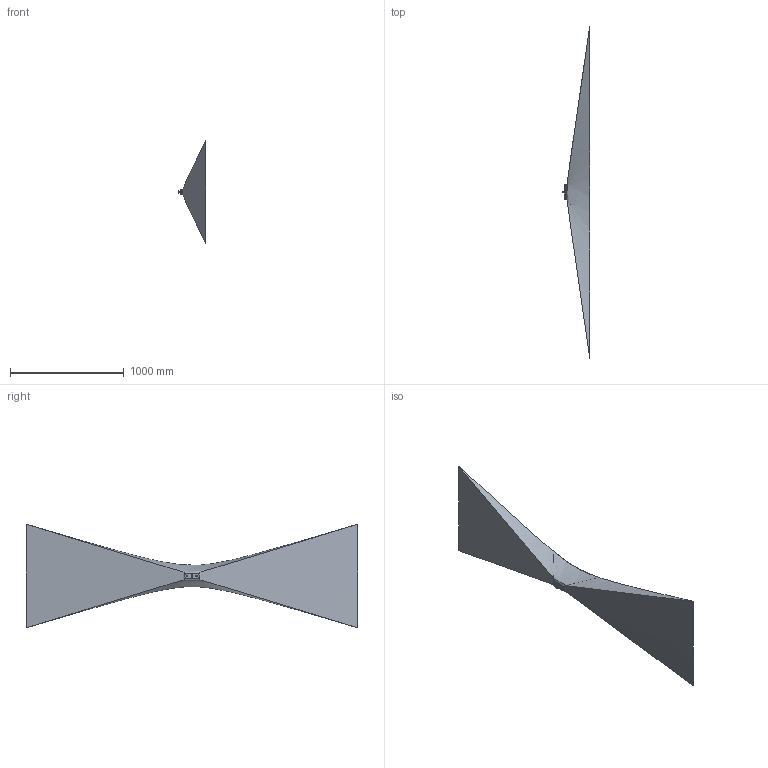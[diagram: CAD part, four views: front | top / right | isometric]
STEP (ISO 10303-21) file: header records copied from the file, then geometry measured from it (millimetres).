
FILE_DESCRIPTION(('CATIA V5 STEP Exchange','CAx-IF Rec.Pracs.--- Model Styling and Organization---1.5--- 2016-08-15','CAx-IF Rec.Pracs.---Supplemental Geometry---1.0---2011-11-01','CAx-IF Rec.Pracs.--- Composite Materials ---1.1---2010-07-15'),'2;1');
FILE_NAME('E:\tmp\ddx\2011204\3D_data_LED_direction_indicator_lamp_SHAPELINE_tech_2BA 013 398.stp','2022-01-18T07:30:17+00:00',('none'),('none'),'CATIA Version 5-6 Release 2020 SP3 HF9','CATIA V5 STEP AP214 Edition 3 v2','none');
FILE_SCHEMA(('AUTOMOTIVE_DESIGN { 1 0 10303 214 3 1 1 1 }'));
Length unit declared in the file: millimetre
Products named in the file (1): 10001749768_D10_001
Bounding box: 240.4 x 2924.08 x 912.58 mm (x, y, z)
Volume: 102493.3 mm3; surface area: 2286291.8 mm2
Topology: 1 solids, 3 shells, 673 faces, 1601 edges, 937 vertices
Faces by surface type: bspline 332, cylinder 172, plane 89, torus 48, cone 30, sphere 2
Entity records: 33321 total; most frequent: CARTESIAN_POINT 21040, ORIENTED_EDGE 3166, EDGE_CURVE 1595, DIRECTION 1287, B_SPLINE_CURVE_WITH_KNOTS 972, VERTEX_POINT 937, EDGE_LOOP 686, ADVANCED_FACE 673
